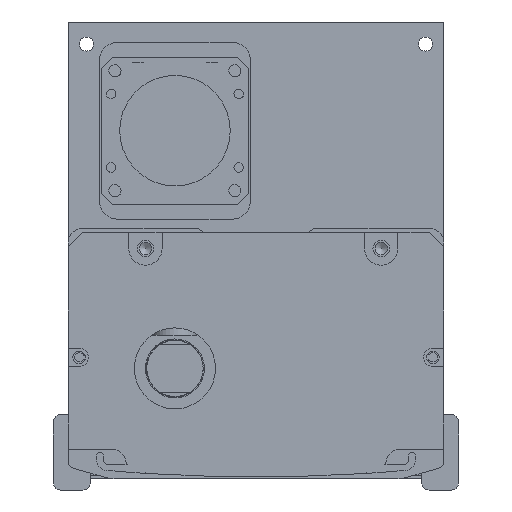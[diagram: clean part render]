
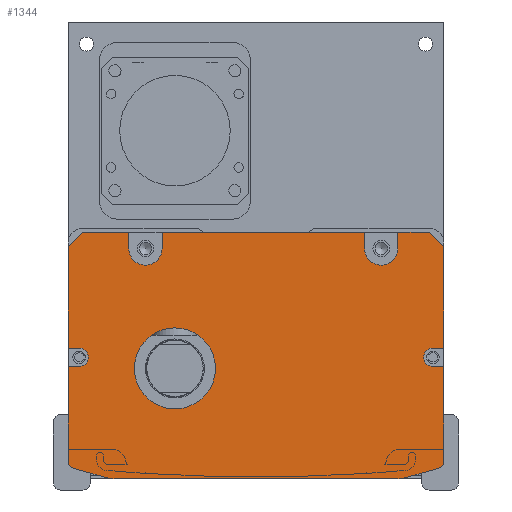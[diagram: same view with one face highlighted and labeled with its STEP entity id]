
A CAD part, front view. The second image highlights one B-rep face of the part: STEP entity #1344.
In plain terms, the highlighted planar face has unit normal (0, -1, 0).
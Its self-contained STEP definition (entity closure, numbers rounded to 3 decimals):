
#1344=ADVANCED_FACE('',(#3990,#3991),#2128,.F.);
#2128=PLANE('',#13024);
#2515=LINE('',#18638,#3277);
#2516=LINE('',#18641,#3278);
#2517=LINE('',#18643,#3279);
#2518=LINE('',#18645,#3280);
#2519=LINE('',#18649,#3281);
#2520=LINE('',#18651,#3282);
#2521=LINE('',#18653,#3283);
#2522=LINE('',#18657,#3284);
#2523=LINE('',#18659,#3285);
#2524=LINE('',#18661,#3286);
#2525=LINE('',#18663,#3287);
#2526=LINE('',#18665,#3288);
#2527=LINE('',#18669,#3289);
#2528=LINE('',#18671,#3290);
#2529=LINE('',#18675,#3291);
#2530=LINE('',#18679,#3292);
#2531=LINE('',#18683,#3293);
#2532=LINE('',#18687,#3294);
#2533=LINE('',#18689,#3295);
#2534=LINE('',#18693,#3296);
#3277=VECTOR('',#14759,1.);
#3278=VECTOR('',#14760,1.);
#3279=VECTOR('',#14761,1.);
#3280=VECTOR('',#14762,1.);
#3281=VECTOR('',#14765,1.);
#3282=VECTOR('',#14766,1.);
#3283=VECTOR('',#14767,1.);
#3284=VECTOR('',#14770,1.);
#3285=VECTOR('',#14771,1.);
#3286=VECTOR('',#14772,1.);
#3287=VECTOR('',#14773,1.);
#3288=VECTOR('',#14774,1.);
#3289=VECTOR('',#14777,1.);
#3290=VECTOR('',#14778,1.);
#3291=VECTOR('',#14781,1.);
#3292=VECTOR('',#14784,1.);
#3293=VECTOR('',#14787,1.);
#3294=VECTOR('',#14790,1.);
#3295=VECTOR('',#14791,1.);
#3296=VECTOR('',#14794,1.);
#3990=FACE_BOUND('',#4660,.T.);
#3991=FACE_BOUND('',#4661,.T.);
#4660=EDGE_LOOP('',(#5945,#5946,#5947,#5948,#5949,#5950,#5951,#5952,#5953,
#5954,#5955,#5956,#5957,#5958,#5959,#5960,#5961,#5962,#5963,#5964,#5965,
#5966,#5967,#5968,#5969,#5970,#5971,#5972));
#4661=EDGE_LOOP('',(#5973));
#5945=ORIENTED_EDGE('',*,*,#10625,.T.);
#5946=ORIENTED_EDGE('',*,*,#10626,.T.);
#5947=ORIENTED_EDGE('',*,*,#10627,.T.);
#5948=ORIENTED_EDGE('',*,*,#10628,.F.);
#5949=ORIENTED_EDGE('',*,*,#10629,.T.);
#5950=ORIENTED_EDGE('',*,*,#10630,.F.);
#5951=ORIENTED_EDGE('',*,*,#10631,.T.);
#5952=ORIENTED_EDGE('',*,*,#10632,.F.);
#5953=ORIENTED_EDGE('',*,*,#10633,.T.);
#5954=ORIENTED_EDGE('',*,*,#10634,.F.);
#5955=ORIENTED_EDGE('',*,*,#10635,.T.);
#5956=ORIENTED_EDGE('',*,*,#10636,.T.);
#5957=ORIENTED_EDGE('',*,*,#10637,.T.);
#5958=ORIENTED_EDGE('',*,*,#10638,.T.);
#5959=ORIENTED_EDGE('',*,*,#10639,.T.);
#5960=ORIENTED_EDGE('',*,*,#10640,.T.);
#5961=ORIENTED_EDGE('',*,*,#10641,.T.);
#5962=ORIENTED_EDGE('',*,*,#10642,.T.);
#5963=ORIENTED_EDGE('',*,*,#10643,.T.);
#5964=ORIENTED_EDGE('',*,*,#10644,.T.);
#5965=ORIENTED_EDGE('',*,*,#10645,.T.);
#5966=ORIENTED_EDGE('',*,*,#10646,.T.);
#5967=ORIENTED_EDGE('',*,*,#10647,.T.);
#5968=ORIENTED_EDGE('',*,*,#10648,.T.);
#5969=ORIENTED_EDGE('',*,*,#10649,.T.);
#5970=ORIENTED_EDGE('',*,*,#10650,.T.);
#5971=ORIENTED_EDGE('',*,*,#10651,.T.);
#5972=ORIENTED_EDGE('',*,*,#10652,.T.);
#5973=ORIENTED_EDGE('',*,*,#10653,.T.);
#9382=VERTEX_POINT('',#18639);
#9383=VERTEX_POINT('',#18640);
#9384=VERTEX_POINT('',#18642);
#9385=VERTEX_POINT('',#18644);
#9386=VERTEX_POINT('',#18646);
#9387=VERTEX_POINT('',#18648);
#9388=VERTEX_POINT('',#18650);
#9389=VERTEX_POINT('',#18652);
#9390=VERTEX_POINT('',#18654);
#9391=VERTEX_POINT('',#18656);
#9392=VERTEX_POINT('',#18658);
#9393=VERTEX_POINT('',#18660);
#9394=VERTEX_POINT('',#18662);
#9395=VERTEX_POINT('',#18664);
#9396=VERTEX_POINT('',#18666);
#9397=VERTEX_POINT('',#18668);
#9398=VERTEX_POINT('',#18670);
#9399=VERTEX_POINT('',#18672);
#9400=VERTEX_POINT('',#18674);
#9401=VERTEX_POINT('',#18676);
#9402=VERTEX_POINT('',#18678);
#9403=VERTEX_POINT('',#18680);
#9404=VERTEX_POINT('',#18682);
#9405=VERTEX_POINT('',#18684);
#9406=VERTEX_POINT('',#18686);
#9407=VERTEX_POINT('',#18688);
#9408=VERTEX_POINT('',#18690);
#9409=VERTEX_POINT('',#18692);
#9410=VERTEX_POINT('',#18695);
#10625=EDGE_CURVE('',#9382,#9383,#2515,.T.);
#10626=EDGE_CURVE('',#9383,#9384,#2516,.T.);
#10627=EDGE_CURVE('',#9384,#9385,#2517,.T.);
#10628=EDGE_CURVE('',#9386,#9385,#2518,.T.);
#10629=EDGE_CURVE('',#9386,#9387,#12249,.T.);
#10630=EDGE_CURVE('',#9388,#9387,#2519,.T.);
#10631=EDGE_CURVE('',#9388,#9389,#2520,.T.);
#10632=EDGE_CURVE('',#9390,#9389,#2521,.T.);
#10633=EDGE_CURVE('',#9390,#9391,#12250,.T.);
#10634=EDGE_CURVE('',#9392,#9391,#2522,.T.);
#10635=EDGE_CURVE('',#9392,#9393,#2523,.T.);
#10636=EDGE_CURVE('',#9393,#9394,#2524,.T.);
#10637=EDGE_CURVE('',#9394,#9395,#2525,.T.);
#10638=EDGE_CURVE('',#9395,#9396,#2526,.T.);
#10639=EDGE_CURVE('',#9396,#9397,#12251,.T.);
#10640=EDGE_CURVE('',#9397,#9398,#2527,.T.);
#10641=EDGE_CURVE('',#9398,#9399,#2528,.T.);
#10642=EDGE_CURVE('',#9399,#9400,#12252,.T.);
#10643=EDGE_CURVE('',#9400,#9401,#2529,.T.);
#10644=EDGE_CURVE('',#9401,#9402,#12253,.T.);
#10645=EDGE_CURVE('',#9402,#9403,#2530,.T.);
#10646=EDGE_CURVE('',#9403,#9404,#12254,.T.);
#10647=EDGE_CURVE('',#9404,#9405,#2531,.T.);
#10648=EDGE_CURVE('',#9405,#9406,#12255,.T.);
#10649=EDGE_CURVE('',#9406,#9407,#2532,.T.);
#10650=EDGE_CURVE('',#9407,#9408,#2533,.T.);
#10651=EDGE_CURVE('',#9408,#9409,#12256,.T.);
#10652=EDGE_CURVE('',#9409,#9382,#2534,.T.);
#10653=EDGE_CURVE('',#9410,#9410,#12257,.T.);
#12249=CIRCLE('',#13015,4.5);
#12250=CIRCLE('',#13016,4.5);
#12251=CIRCLE('',#13017,2.5);
#12252=CIRCLE('',#13018,2.);
#12253=CIRCLE('',#13019,10.);
#12254=CIRCLE('',#13020,10.);
#12255=CIRCLE('',#13021,2.);
#12256=CIRCLE('',#13022,2.5);
#12257=CIRCLE('',#13023,11.);
#13015=AXIS2_PLACEMENT_3D('',#18647,#14763,#14764);
#13016=AXIS2_PLACEMENT_3D('',#18655,#14768,#14769);
#13017=AXIS2_PLACEMENT_3D('',#18667,#14775,#14776);
#13018=AXIS2_PLACEMENT_3D('',#18673,#14779,#14780);
#13019=AXIS2_PLACEMENT_3D('',#18677,#14782,#14783);
#13020=AXIS2_PLACEMENT_3D('',#18681,#14785,#14786);
#13021=AXIS2_PLACEMENT_3D('',#18685,#14788,#14789);
#13022=AXIS2_PLACEMENT_3D('',#18691,#14792,#14793);
#13023=AXIS2_PLACEMENT_3D('',#18694,#14795,#14796);
#13024=AXIS2_PLACEMENT_3D('',#18696,#14797,#14798);
#14759=DIRECTION('',(0.,0.,1.));
#14760=DIRECTION('',(-0.707,0.,0.707));
#14761=DIRECTION('',(-1.,0.,0.));
#14762=DIRECTION('',(0.,0.,1.));
#14763=DIRECTION('',(0.,1.,0.));
#14764=DIRECTION('',(0.,0.,1.));
#14765=DIRECTION('',(0.,0.,-1.));
#14766=DIRECTION('',(-1.,0.,0.));
#14767=DIRECTION('',(0.,0.,1.));
#14768=DIRECTION('',(0.,1.,0.));
#14769=DIRECTION('',(0.,0.,1.));
#14770=DIRECTION('',(0.,0.,-1.));
#14771=DIRECTION('',(-1.,0.,0.));
#14772=DIRECTION('',(-0.707,0.,-0.707));
#14773=DIRECTION('',(0.,0.,-1.));
#14774=DIRECTION('',(1.,0.,0.));
#14775=DIRECTION('',(0.,1.,0.));
#14776=DIRECTION('',(0.,0.,1.));
#14777=DIRECTION('',(-1.,0.,0.));
#14778=DIRECTION('',(0.,0.,-1.));
#14779=DIRECTION('',(0.,-1.,0.));
#14780=DIRECTION('',(0.,0.,1.));
#14781=DIRECTION('',(0.963,0.,-0.269));
#14782=DIRECTION('',(0.,-1.,0.));
#14783=DIRECTION('',(0.,0.,1.));
#14784=DIRECTION('',(1.,0.,0.));
#14785=DIRECTION('',(0.,-1.,0.));
#14786=DIRECTION('',(0.,0.,-1.));
#14787=DIRECTION('',(0.963,0.,0.269));
#14788=DIRECTION('',(0.,-1.,0.));
#14789=DIRECTION('',(0.,0.,-1.));
#14790=DIRECTION('',(0.,0.,1.));
#14791=DIRECTION('',(-1.,0.,0.));
#14792=DIRECTION('',(0.,1.,0.));
#14793=DIRECTION('',(0.,0.,1.));
#14794=DIRECTION('',(1.,0.,0.));
#14795=DIRECTION('',(0.,1.,0.));
#14796=DIRECTION('',(0.,0.,1.));
#14797=DIRECTION('',(0.,1.,0.));
#14798=DIRECTION('',(-1.,0.,0.));
#18638=CARTESIAN_POINT('',(47.808,-467.5,-1.));
#18639=CARTESIAN_POINT('',(47.808,-467.5,-32.5));
#18640=CARTESIAN_POINT('',(47.808,-467.5,-5.));
#18641=CARTESIAN_POINT('',(43.808,-467.5,-1.));
#18642=CARTESIAN_POINT('',(43.808,-467.5,-1.));
#18643=CARTESIAN_POINT('',(-3.192,-467.5,-1.));
#18644=CARTESIAN_POINT('',(35.308,-467.5,-1.));
#18645=CARTESIAN_POINT('',(35.308,-467.5,-1.));
#18646=CARTESIAN_POINT('',(35.308,-467.5,-5.5));
#18647=CARTESIAN_POINT('',(30.808,-467.5,-5.5));
#18648=CARTESIAN_POINT('',(26.308,-467.5,-5.5));
#18649=CARTESIAN_POINT('',(26.308,-467.5,-1.));
#18650=CARTESIAN_POINT('',(26.308,-467.5,-1.));
#18651=CARTESIAN_POINT('',(-54.192,-467.5,-1.));
#18652=CARTESIAN_POINT('',(-28.692,-467.5,-1.));
#18653=CARTESIAN_POINT('',(-28.692,-467.5,-3.5));
#18654=CARTESIAN_POINT('',(-28.692,-467.5,-5.5));
#18655=CARTESIAN_POINT('',(-33.192,-467.5,-5.5));
#18656=CARTESIAN_POINT('',(-37.692,-467.5,-5.5));
#18657=CARTESIAN_POINT('',(-37.692,-467.5,-1.));
#18658=CARTESIAN_POINT('',(-37.692,-467.5,-1.));
#18659=CARTESIAN_POINT('',(-54.192,-467.5,-1.));
#18660=CARTESIAN_POINT('',(-50.192,-467.5,-1.));
#18661=CARTESIAN_POINT('',(-54.192,-467.5,-5.));
#18662=CARTESIAN_POINT('',(-54.192,-467.5,-5.));
#18663=CARTESIAN_POINT('',(-54.192,-467.5,-62.));
#18664=CARTESIAN_POINT('',(-54.192,-467.5,-32.5));
#18665=CARTESIAN_POINT('',(-3.192,-467.5,-32.5));
#18666=CARTESIAN_POINT('',(-51.192,-467.5,-32.5));
#18667=CARTESIAN_POINT('',(-51.192,-467.5,-35.));
#18668=CARTESIAN_POINT('',(-51.192,-467.5,-37.5));
#18669=CARTESIAN_POINT('',(-3.192,-467.5,-37.5));
#18670=CARTESIAN_POINT('',(-54.192,-467.5,-37.5));
#18671=CARTESIAN_POINT('',(-54.192,-467.5,-62.));
#18672=CARTESIAN_POINT('',(-54.192,-467.5,-63.212));
#18673=CARTESIAN_POINT('',(-52.192,-467.5,-63.212));
#18674=CARTESIAN_POINT('',(-52.731,-467.5,-65.138));
#18675=CARTESIAN_POINT('',(-55.807,-467.5,-64.279));
#18676=CARTESIAN_POINT('',(-43.809,-467.5,-67.631));
#18677=CARTESIAN_POINT('',(-41.118,-467.5,-58.));
#18678=CARTESIAN_POINT('',(-41.118,-467.5,-68.));
#18679=CARTESIAN_POINT('',(-54.692,-467.5,-68.));
#18680=CARTESIAN_POINT('',(34.733,-467.5,-68.));
#18681=CARTESIAN_POINT('',(34.733,-467.5,-58.));
#18682=CARTESIAN_POINT('',(37.424,-467.5,-67.631));
#18683=CARTESIAN_POINT('',(49.422,-467.5,-64.279));
#18684=CARTESIAN_POINT('',(46.346,-467.5,-65.138));
#18685=CARTESIAN_POINT('',(45.808,-467.5,-63.212));
#18686=CARTESIAN_POINT('',(47.808,-467.5,-63.212));
#18687=CARTESIAN_POINT('',(47.808,-467.5,-1.));
#18688=CARTESIAN_POINT('',(47.808,-467.5,-37.5));
#18689=CARTESIAN_POINT('',(-3.192,-467.5,-37.5));
#18690=CARTESIAN_POINT('',(44.808,-467.5,-37.5));
#18691=CARTESIAN_POINT('',(44.808,-467.5,-35.));
#18692=CARTESIAN_POINT('',(44.808,-467.5,-32.5));
#18693=CARTESIAN_POINT('',(-3.192,-467.5,-32.5));
#18694=CARTESIAN_POINT('',(-25.192,-467.5,-38.));
#18695=CARTESIAN_POINT('',(-25.192,-467.5,-27.));
#18696=CARTESIAN_POINT('',(-3.192,-467.5,-1.));
